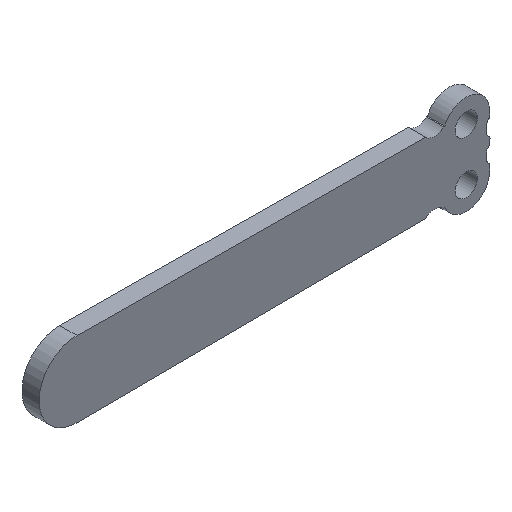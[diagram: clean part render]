
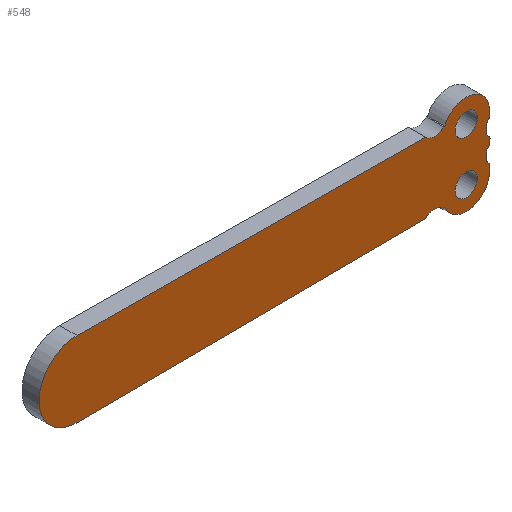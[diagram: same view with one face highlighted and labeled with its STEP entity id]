
A CAD part, isometric view. The second image highlights one B-rep face of the part: STEP entity #548.
In plain terms, the highlighted planar face has unit normal (0, -1, 0).
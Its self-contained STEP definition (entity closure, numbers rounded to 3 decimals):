
#19=FACE_BOUND('',#70,.T.);
#20=FACE_BOUND('',#71,.T.);
#23=PLANE('',#594);
#40=FACE_OUTER_BOUND('',#69,.T.);
#69=EDGE_LOOP('',(#376,#377,#378,#379,#380,#381,#382,#383,#384,#385,#386,
#387,#388,#389,#390,#391,#392,#393,#394,#395,#396,#397,#398,#399,#400));
#70=EDGE_LOOP('',(#401));
#71=EDGE_LOOP('',(#402));
#103=LINE('',#831,#158);
#104=LINE('',#835,#159);
#105=LINE('',#837,#160);
#106=LINE('',#841,#161);
#107=LINE('',#843,#162);
#108=LINE('',#847,#163);
#109=LINE('',#849,#164);
#110=LINE('',#853,#165);
#111=LINE('',#857,#166);
#112=LINE('',#861,#167);
#113=LINE('',#865,#168);
#114=LINE('',#869,#169);
#115=LINE('',#873,#170);
#116=LINE('',#876,#171);
#158=VECTOR('',#661,10.);
#159=VECTOR('',#664,10.);
#160=VECTOR('',#665,10.);
#161=VECTOR('',#668,10.);
#162=VECTOR('',#669,10.);
#163=VECTOR('',#672,10.);
#164=VECTOR('',#673,10.);
#165=VECTOR('',#676,10.);
#166=VECTOR('',#679,10.);
#167=VECTOR('',#682,10.);
#168=VECTOR('',#685,10.);
#169=VECTOR('',#688,10.);
#170=VECTOR('',#691,10.);
#171=VECTOR('',#694,10.);
#212=CIRCLE('',#593,1.);
#213=CIRCLE('',#595,1.);
#214=CIRCLE('',#596,1.);
#215=CIRCLE('',#597,1.);
#216=CIRCLE('',#598,1.);
#217=CIRCLE('',#599,1.);
#218=CIRCLE('',#600,6.5);
#219=CIRCLE('',#601,3.5);
#220=CIRCLE('',#602,10.503);
#221=CIRCLE('',#603,3.5);
#222=CIRCLE('',#604,6.5);
#223=CIRCLE('',#605,3.1);
#224=CIRCLE('',#606,3.1);
#239=VERTEX_POINT('',#824);
#240=VERTEX_POINT('',#826);
#241=VERTEX_POINT('',#830);
#242=VERTEX_POINT('',#832);
#243=VERTEX_POINT('',#834);
#244=VERTEX_POINT('',#836);
#245=VERTEX_POINT('',#838);
#246=VERTEX_POINT('',#840);
#247=VERTEX_POINT('',#842);
#248=VERTEX_POINT('',#844);
#249=VERTEX_POINT('',#846);
#250=VERTEX_POINT('',#848);
#251=VERTEX_POINT('',#850);
#252=VERTEX_POINT('',#852);
#253=VERTEX_POINT('',#854);
#254=VERTEX_POINT('',#856);
#255=VERTEX_POINT('',#858);
#256=VERTEX_POINT('',#860);
#257=VERTEX_POINT('',#862);
#258=VERTEX_POINT('',#864);
#259=VERTEX_POINT('',#866);
#260=VERTEX_POINT('',#868);
#261=VERTEX_POINT('',#870);
#262=VERTEX_POINT('',#872);
#263=VERTEX_POINT('',#874);
#264=VERTEX_POINT('',#877);
#265=VERTEX_POINT('',#879);
#293=EDGE_CURVE('',#239,#240,#212,.T.);
#295=EDGE_CURVE('',#241,#239,#103,.T.);
#296=EDGE_CURVE('',#242,#241,#213,.T.);
#297=EDGE_CURVE('',#243,#242,#104,.T.);
#298=EDGE_CURVE('',#244,#243,#105,.T.);
#299=EDGE_CURVE('',#245,#244,#214,.T.);
#300=EDGE_CURVE('',#246,#245,#106,.T.);
#301=EDGE_CURVE('',#247,#246,#107,.T.);
#302=EDGE_CURVE('',#248,#247,#215,.T.);
#303=EDGE_CURVE('',#249,#248,#108,.T.);
#304=EDGE_CURVE('',#250,#249,#109,.T.);
#305=EDGE_CURVE('',#251,#250,#216,.T.);
#306=EDGE_CURVE('',#252,#251,#110,.T.);
#307=EDGE_CURVE('',#253,#252,#217,.T.);
#308=EDGE_CURVE('',#254,#253,#111,.T.);
#309=EDGE_CURVE('',#255,#254,#218,.T.);
#310=EDGE_CURVE('',#256,#255,#112,.T.);
#311=EDGE_CURVE('',#257,#256,#219,.T.);
#312=EDGE_CURVE('',#258,#257,#113,.T.);
#313=EDGE_CURVE('',#259,#258,#220,.T.);
#314=EDGE_CURVE('',#260,#259,#114,.T.);
#315=EDGE_CURVE('',#261,#260,#221,.T.);
#316=EDGE_CURVE('',#262,#261,#115,.T.);
#317=EDGE_CURVE('',#263,#262,#222,.T.);
#318=EDGE_CURVE('',#240,#263,#116,.T.);
#319=EDGE_CURVE('',#264,#264,#223,.T.);
#320=EDGE_CURVE('',#265,#265,#224,.T.);
#376=ORIENTED_EDGE('',*,*,#293,.F.);
#377=ORIENTED_EDGE('',*,*,#295,.F.);
#378=ORIENTED_EDGE('',*,*,#296,.F.);
#379=ORIENTED_EDGE('',*,*,#297,.F.);
#380=ORIENTED_EDGE('',*,*,#298,.F.);
#381=ORIENTED_EDGE('',*,*,#299,.F.);
#382=ORIENTED_EDGE('',*,*,#300,.F.);
#383=ORIENTED_EDGE('',*,*,#301,.F.);
#384=ORIENTED_EDGE('',*,*,#302,.F.);
#385=ORIENTED_EDGE('',*,*,#303,.F.);
#386=ORIENTED_EDGE('',*,*,#304,.F.);
#387=ORIENTED_EDGE('',*,*,#305,.F.);
#388=ORIENTED_EDGE('',*,*,#306,.F.);
#389=ORIENTED_EDGE('',*,*,#307,.F.);
#390=ORIENTED_EDGE('',*,*,#308,.F.);
#391=ORIENTED_EDGE('',*,*,#309,.F.);
#392=ORIENTED_EDGE('',*,*,#310,.F.);
#393=ORIENTED_EDGE('',*,*,#311,.F.);
#394=ORIENTED_EDGE('',*,*,#312,.F.);
#395=ORIENTED_EDGE('',*,*,#313,.F.);
#396=ORIENTED_EDGE('',*,*,#314,.F.);
#397=ORIENTED_EDGE('',*,*,#315,.F.);
#398=ORIENTED_EDGE('',*,*,#316,.F.);
#399=ORIENTED_EDGE('',*,*,#317,.F.);
#400=ORIENTED_EDGE('',*,*,#318,.F.);
#401=ORIENTED_EDGE('',*,*,#319,.F.);
#402=ORIENTED_EDGE('',*,*,#320,.F.);
#548=ADVANCED_FACE('',(#40,#19,#20),#23,.F.);
#593=AXIS2_PLACEMENT_3D('',#827,#656,#657);
#594=AXIS2_PLACEMENT_3D('',#829,#659,#660);
#595=AXIS2_PLACEMENT_3D('',#833,#662,#663);
#596=AXIS2_PLACEMENT_3D('',#839,#666,#667);
#597=AXIS2_PLACEMENT_3D('',#845,#670,#671);
#598=AXIS2_PLACEMENT_3D('',#851,#674,#675);
#599=AXIS2_PLACEMENT_3D('',#855,#677,#678);
#600=AXIS2_PLACEMENT_3D('',#859,#680,#681);
#601=AXIS2_PLACEMENT_3D('',#863,#683,#684);
#602=AXIS2_PLACEMENT_3D('',#867,#686,#687);
#603=AXIS2_PLACEMENT_3D('',#871,#689,#690);
#604=AXIS2_PLACEMENT_3D('',#875,#692,#693);
#605=AXIS2_PLACEMENT_3D('',#878,#695,#696);
#606=AXIS2_PLACEMENT_3D('',#880,#697,#698);
#656=DIRECTION('center_axis',(0.,1.,0.));
#657=DIRECTION('ref_axis',(0.924,0.,0.383));
#659=DIRECTION('center_axis',(0.,1.,0.));
#660=DIRECTION('ref_axis',(1.,0.,0.));
#661=DIRECTION('',(0.707,0.,-0.707));
#662=DIRECTION('center_axis',(0.,-1.,0.));
#663=DIRECTION('ref_axis',(-0.924,0.,-0.383));
#664=DIRECTION('',(0.,0.,-1.));
#665=DIRECTION('',(-0.707,0.,-0.707));
#666=DIRECTION('center_axis',(0.,1.,0.));
#667=DIRECTION('ref_axis',(0.924,0.,-0.383));
#668=DIRECTION('',(0.,0.,-1.));
#669=DIRECTION('',(0.,0.,-1.));
#670=DIRECTION('center_axis',(0.,1.,0.));
#671=DIRECTION('ref_axis',(0.924,0.,0.383));
#672=DIRECTION('',(0.707,0.,-0.707));
#673=DIRECTION('',(0.,0.,-1.));
#674=DIRECTION('center_axis',(0.,-1.,0.));
#675=DIRECTION('ref_axis',(-0.924,0.,0.383));
#676=DIRECTION('',(-0.707,0.,-0.707));
#677=DIRECTION('center_axis',(0.,1.,0.));
#678=DIRECTION('ref_axis',(0.924,0.,-0.383));
#679=DIRECTION('',(0.,0.,-1.));
#680=DIRECTION('center_axis',(0.,1.,0.));
#681=DIRECTION('ref_axis',(-0.921,0.,0.389));
#682=DIRECTION('',(1.,0.,0.));
#683=DIRECTION('center_axis',(0.,-1.,0.));
#684=DIRECTION('ref_axis',(0.714,0.,-0.7));
#685=DIRECTION('',(1.,0.,-0.007));
#686=DIRECTION('center_axis',(0.,1.,0.));
#687=DIRECTION('ref_axis',(0.007,0.,-1.));
#688=DIRECTION('',(-1.,0.,-0.007));
#689=DIRECTION('center_axis',(0.,-1.,0.));
#690=DIRECTION('ref_axis',(-0.714,0.,0.7));
#691=DIRECTION('',(-1.,0.,0.));
#692=DIRECTION('center_axis',(0.,1.,0.));
#693=DIRECTION('ref_axis',(1.,0.,0.001));
#694=DIRECTION('',(0.,0.,-1.));
#695=DIRECTION('center_axis',(0.,-1.,0.));
#696=DIRECTION('ref_axis',(1.,0.,0.));
#697=DIRECTION('center_axis',(0.,-1.,0.));
#698=DIRECTION('ref_axis',(1.,0.,0.));
#824=CARTESIAN_POINT('',(12.707,-2.4,-5.257));
#826=CARTESIAN_POINT('',(13.,-2.4,-5.964));
#827=CARTESIAN_POINT('Origin',(12.,-2.4,-5.964));
#829=CARTESIAN_POINT('Origin',(-49.695,-2.4,0.));
#830=CARTESIAN_POINT('',(12.548,-2.4,-5.098));
#831=CARTESIAN_POINT('',(12.255,-2.4,-4.805));
#832=CARTESIAN_POINT('',(12.255,-2.4,-4.391));
#833=CARTESIAN_POINT('Origin',(13.255,-2.4,-4.391));
#834=CARTESIAN_POINT('',(12.255,-2.4,-1.805));
#835=CARTESIAN_POINT('',(12.255,-2.4,-3.305));
#836=CARTESIAN_POINT('',(12.817,-2.4,-1.243));
#837=CARTESIAN_POINT('',(12.255,-2.4,-1.805));
#838=CARTESIAN_POINT('',(13.11,-2.4,-0.536));
#839=CARTESIAN_POINT('Origin',(12.11,-2.4,-0.536));
#840=CARTESIAN_POINT('',(13.11,-2.4,0.));
#841=CARTESIAN_POINT('',(13.11,-2.4,0.));
#842=CARTESIAN_POINT('',(13.11,-2.4,0.536));
#843=CARTESIAN_POINT('',(13.11,-2.4,0.));
#844=CARTESIAN_POINT('',(12.817,-2.4,1.243));
#845=CARTESIAN_POINT('Origin',(12.11,-2.4,0.536));
#846=CARTESIAN_POINT('',(12.255,-2.4,1.805));
#847=CARTESIAN_POINT('',(12.255,-2.4,1.805));
#848=CARTESIAN_POINT('',(12.255,-2.4,4.391));
#849=CARTESIAN_POINT('',(12.255,-2.4,3.305));
#850=CARTESIAN_POINT('',(12.548,-2.4,5.098));
#851=CARTESIAN_POINT('Origin',(13.255,-2.4,4.391));
#852=CARTESIAN_POINT('',(12.707,-2.4,5.257));
#853=CARTESIAN_POINT('',(12.255,-2.4,4.805));
#854=CARTESIAN_POINT('',(13.,-2.4,5.964));
#855=CARTESIAN_POINT('Origin',(12.,-2.4,5.964));
#856=CARTESIAN_POINT('',(13.,-2.4,7.295));
#857=CARTESIAN_POINT('',(13.,-2.4,0.));
#858=CARTESIAN_POINT('',(0.511,-2.4,9.826));
#859=CARTESIAN_POINT('Origin',(6.5,-2.4,7.3));
#860=CARTESIAN_POINT('',(0.131,-2.4,9.826));
#861=CARTESIAN_POINT('',(0.511,-2.4,9.826));
#862=CARTESIAN_POINT('',(-4.869,-2.4,9.826));
#863=CARTESIAN_POINT('Origin',(-2.369,-2.4,12.275));
#864=CARTESIAN_POINT('',(-101.923,-2.4,10.503));
#865=CARTESIAN_POINT('',(-4.869,-2.4,9.826));
#866=CARTESIAN_POINT('',(-101.923,-2.4,-10.503));
#867=CARTESIAN_POINT('Origin',(-101.997,-2.4,0.));
#868=CARTESIAN_POINT('',(-4.869,-2.4,-9.826));
#869=CARTESIAN_POINT('',(-4.869,-2.4,-9.826));
#870=CARTESIAN_POINT('',(0.131,-2.4,-9.826));
#871=CARTESIAN_POINT('Origin',(-2.369,-2.4,-12.275));
#872=CARTESIAN_POINT('',(0.511,-2.4,-9.826));
#873=CARTESIAN_POINT('',(0.511,-2.4,-9.826));
#874=CARTESIAN_POINT('',(13.,-2.4,-7.295));
#875=CARTESIAN_POINT('Origin',(6.5,-2.4,-7.3));
#876=CARTESIAN_POINT('',(13.,-2.4,0.));
#877=CARTESIAN_POINT('',(3.4,-2.4,-7.3));
#878=CARTESIAN_POINT('Origin',(6.5,-2.4,-7.3));
#879=CARTESIAN_POINT('',(3.4,-2.4,7.3));
#880=CARTESIAN_POINT('Origin',(6.5,-2.4,7.3));
